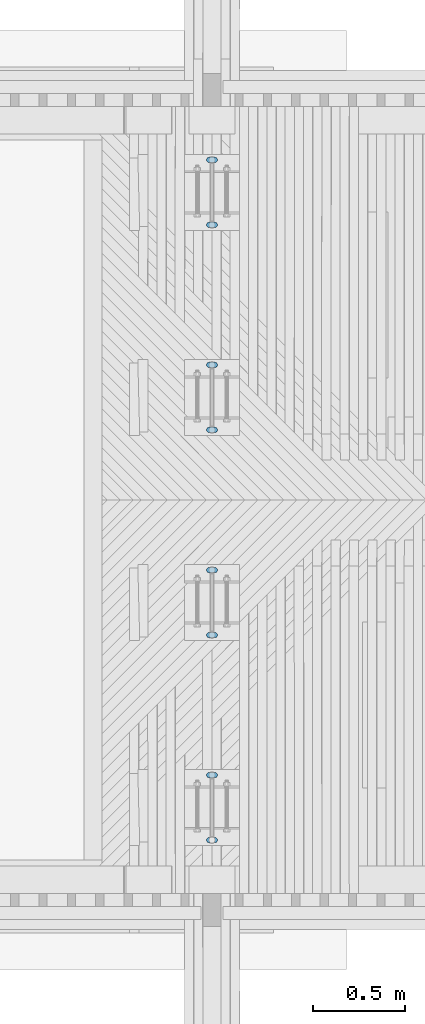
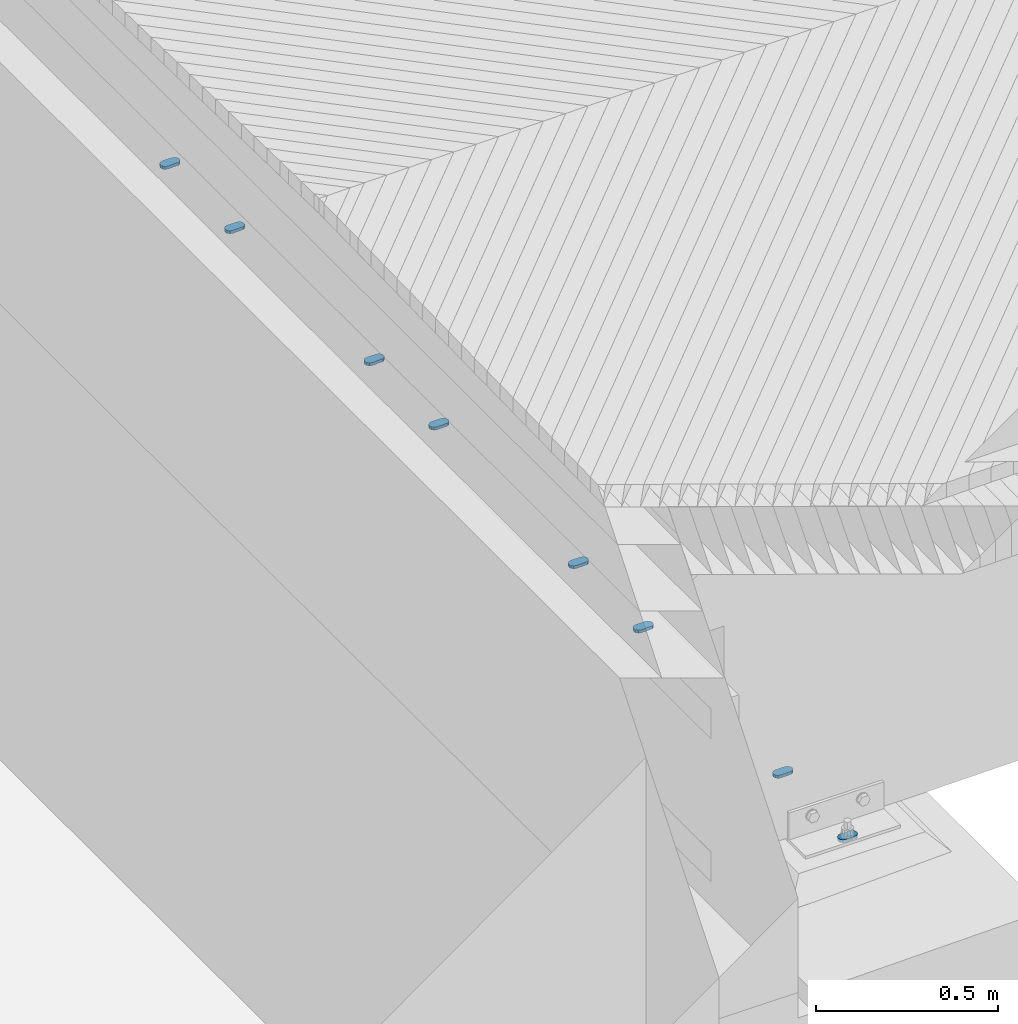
# One storey, part 4 of 53: 15 mechanical fasteners.
"""IFC2X3 building model written with IfcOpenShell, lengths in millimetres."""

from ifc_helpers import new_model, si_unit, frame, origin_with_axes, place, context, subcontext, project, spatial, faceted_brep, source, transform, mapped, material, type_object, element, save


model = new_model("IFC2X3")

# Units and contexts
model_context = context("Model", 3, precision=1e-05, world=origin_with_axes())
body_context = subcontext(model_context, "Body", "Model", "MODEL_VIEW")
ifc_project = project(units=[si_unit("LENGTHUNIT", "METRE", prefix="MILLI"), si_unit("AREAUNIT", "SQUARE_METRE"), si_unit("VOLUMEUNIT", "CUBIC_METRE"), si_unit("MASSUNIT", "GRAM", prefix="KILO"), si_unit("TIMEUNIT", "SECOND"), si_unit("PLANEANGLEUNIT", "RADIAN"), si_unit("SOLIDANGLEUNIT", "STERADIAN"), si_unit("THERMODYNAMICTEMPERATUREUNIT", "DEGREE_CELSIUS"), si_unit("LUMINOUSINTENSITYUNIT", "LUMEN")], contexts=[model_context])

# Site, building, storey
site_placement = place(None, origin_with_axes())
site = spatial("IfcSite", under=ifc_project, at=site_placement, Name="Undefined", CompositionType="ELEMENT")
building_placement = place(site_placement, origin_with_axes())
building = spatial("IfcBuilding", under=site, at=building_placement, Name="Undefined", CompositionType="ELEMENT")
storey_placement = place(building_placement, origin_with_axes())
storey = spatial("IfcBuildingStorey", under=building, at=storey_placement, Name="Undefined", CompositionType="ELEMENT", Elevation=0.0)

# Mechanical fasteners
ifc_material = material(Name="Undefined")
mechanical_fastener_type = type_object("IfcMechanicalFastenerType", Name="Bolt assembly")
shared_shape = source(origin_with_axes(), body_context, "Body", "Brep", [
    faceted_brep([(30.0, -9.99999999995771, 0.0), (28.8581929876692, -9.99999999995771, 5.7402514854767), (25.6066017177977, -9.99999999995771, 10.6066017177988), (20.7402514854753, -9.99999999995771, 13.8581929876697), (-15.0000000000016, -9.99999999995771, 15.0), (-22.5000000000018, -9.99999999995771, 12.9903810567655), (-27.9903810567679, -9.99999999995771, 7.49999999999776), (-30.0, -9.99999999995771, -3.10900794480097e-12), (-27.9903810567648, -9.99999999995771, -7.50000000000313), (-22.4999999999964, -9.99999999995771, -12.9903810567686), (-14.9999999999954, -9.99999999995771, -15.0), (15.0000000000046, -9.99999999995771, -15.0), (22.5000000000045, -9.99999999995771, -12.990381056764), (27.9903810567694, -9.99999999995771, -7.49999999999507), (30.0, 0.100000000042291, 0.0), (27.9903810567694, 0.100000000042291, -7.49999999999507), (22.5000000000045, 0.100000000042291, -12.990381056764), (15.0000000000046, 0.100000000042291, -15.0), (-14.9999999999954, 0.100000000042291, -15.0), (-22.4999999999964, 0.100000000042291, -12.9903810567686), (-27.9903810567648, 0.100000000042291, -7.50000000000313), (-30.0, 0.100000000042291, -3.10900794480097e-12), (-27.9903810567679, 0.100000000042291, 7.49999999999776), (-22.5000000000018, 0.100000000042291, 12.9903810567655), (-15.0000000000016, 0.100000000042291, 15.0), (20.7402514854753, 0.100000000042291, 13.8581929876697), (25.6066017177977, 0.100000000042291, 10.6066017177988), (28.8581929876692, 0.100000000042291, 5.7402514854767)], [[[0, 1, 2, 3, 4, 5, 6, 7, 8, 9, 10, 11, 12, 13]], [[14, 15, 16, 17, 18, 19, 20, 21, 22, 23, 24, 25, 26, 27]], [[0, 14, 27, 1]], [[1, 27, 26, 2]], [[2, 26, 25, 3]], [[3, 25, 24, 4]], [[4, 24, 23, 5]], [[5, 23, 22, 6]], [[6, 22, 21, 7]], [[7, 21, 20, 8]], [[8, 20, 19, 9]], [[9, 19, 18, 10]], [[10, 18, 17, 11]], [[11, 17, 16, 12]], [[12, 16, 15, 13]], [[13, 15, 14, 0]]]),
])
for number, where, z_axis, x_axis, name in (
    (1, (0.0, 42747.5000000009, 2007.32999999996), (0.0, -1.0, 0.0), (1.0, 0.0, 0.0), "Bolt assembly"),
    (2, (0.0, 43102.5000000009, 2007.32999999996), (0.0, -1.0, 0.0), (1.0, 0.0, 0.0), "Bolt assembly"),
    (3, (0.0, 43867.5000000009, 1985.32999999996), (0.0, -1.0, 0.0), (1.0, 0.0, 0.0), "Bolt assembly"),
    (4, (0.0, 44222.5000000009, 1985.32999999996), (0.0, -1.0, 0.0), (1.0, 0.0, 0.0), "Bolt assembly"),
    (5, (0.0, 41982.5, 2007.32999999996), (0.0, -1.0, 0.0), (1.0, 0.0, 0.0), "Bolt assembly"),
    (6, (0.0, 41627.5, 2007.32999999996), (0.0, -1.0, 0.0), (1.0, 0.0, 0.0), "Bolt assembly"),
    (7, (0.0, 40862.5, 1985.32999999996), (0.0, -1.0, 0.0), (1.0, 0.0, 0.0), "Bolt assembly"),
    (8, (0.0, 42747.5000000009, 2007.32999999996), (0.0, -1.0, 0.0), (1.0, 0.0, 0.0), "Bolt assembly"),
    (9, (0.0, 43102.5000000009, 2007.32999999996), (0.0, -1.0, 0.0), (1.0, 0.0, 0.0), "Bolt assembly"),
    (10, (0.0, 43867.5000000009, 1985.32999999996), (0.0, -1.0, 0.0), (1.0, 0.0, 0.0), "Bolt assembly"),
    (11, (0.0, 44222.5000000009, 1985.32999999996), (0.0, -1.0, 0.0), (1.0, 0.0, 0.0), "Bolt assembly"),
    (12, (0.0, 41982.5, 2007.32999999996), (0.0, -1.0, 0.0), (1.0, 0.0, 0.0), "Bolt assembly"),
    (13, (0.0, 41627.5, 2007.32999999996), (0.0, -1.0, 0.0), (1.0, 0.0, 0.0), "Bolt assembly"),
    (14, (0.0, 40862.5, 1985.32999999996), (0.0, -1.0, 0.0), (1.0, 0.0, 0.0), "Bolt assembly"),
    (15, (0.0, 40507.5, 1985.32999999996), (0.0, -1.0, 0.0), (1.0, 0.0, 0.0), "Bolt assembly"),
):
    element("IfcMechanicalFastener", number, at=place(storey_placement, frame(where, z_axis=z_axis, x_axis=x_axis)), inside=storey, type_object=mechanical_fastener_type, material=ifc_material, Name=name, NominalDiameter=20.0, NominalLength=30.0, context=body_context, shape_type="MappedRepresentation", body=[
        mapped(shared_shape, transform((0.0, 0.0, 0.0))),
    ])

save(model, "model.ifc")
